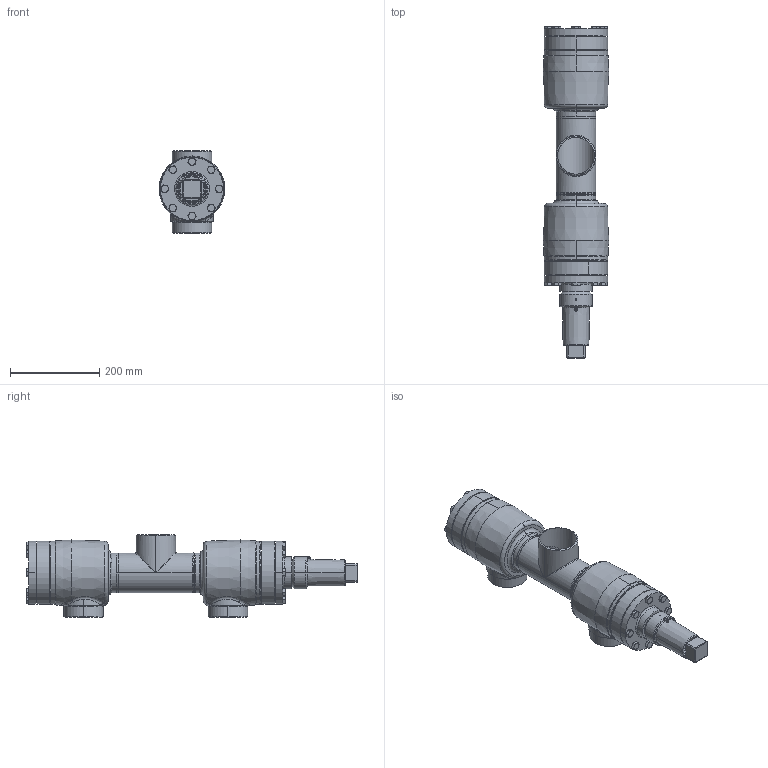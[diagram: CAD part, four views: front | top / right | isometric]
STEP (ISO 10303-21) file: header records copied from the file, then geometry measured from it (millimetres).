
FILE_DESCRIPTION (( 'STEP AP214' ), '1' );
FILE_NAME ('WVR24000D18-DN080_R1_PS40.STEP', '2010-09-08T08:23:51', ( 'Eckhard Grams' ), ( 'AWP Kälte Klima Armaturen GmbH' ), 'SwSTEP 2.0', 'SolidWorks 2002296', '' );
FILE_SCHEMA (( 'AUTOMOTIVE_DESIGN' ));
Length unit declared in the file: millimetre
Products named in the file (15): WVR24000D18-DN080_R1_PS40; Geh,kpl23000E18-DN080_R1_PS40_Standard; bead23000-18-2kopf_Standard; bead23000-18-1kopf_Standard; bead23000-18-2_Standard; bead23000-18-1_Standard; Kopfstück16300-DN080_Standard; T-Stück DIN2615_DN 80; Gehäuse23000E18-DN080_R1_PS40_Standard; AVR26300E18_Deck+Schr-DN80_Standard; Deckel26300E18-DN80_Standard; WVB-R23000E18_Deck+Schr-DN80_Standard; Deckel23000E18-DN80_Standard; Sechskantschraube-DIN933_M10x 30; Kappe 16402-19_DN80-100 (M60x3)_Standard
Assembly tree (31 placements, depth 3):
  WVR24000D18-DN080_R1_PS40
    WVB-R23000E18_Deck+Schr-DN80_Standard
      Sechskantschraube-DIN933_M10x 30  x8
      Deckel23000E18-DN80_Standard
    AVR26300E18_Deck+Schr-DN80_Standard
      Sechskantschraube-DIN933_M10x 30  x8
      Deckel26300E18-DN80_Standard
    Geh,kpl23000E18-DN080_R1_PS40_Standard
      bead23000-18-1kopf_Standard
      Gehäuse23000E18-DN080_R1_PS40_Standard  x2
      Kopfstück16300-DN080_Standard  x2
      bead23000-18-2kopf_Standard
      T-Stück DIN2615_DN 80
      bead23000-18-2_Standard
      bead23000-18-1_Standard
    Kappe 16402-19_DN80-100 (M60x3)_Standard
Bounding box: 147.49 x 745.4 x 186 mm (x, y, z)
Volume: 3401000.9 mm3; surface area: 720946.2 mm2
Topology: 28 solids, 28 shells, 729 faces, 1589 edges, 942 vertices
Faces by surface type: cone 281, plane 202, cylinder 180, bspline 44, torus 22
Entity records: 32170 total; most frequent: CARTESIAN_POINT 24495, DIRECTION 1444, ORIENTED_EDGE 1346, EDGE_CURVE 673, AXIS2_PLACEMENT_3D 623, VERTEX_POINT 413, EDGE_LOOP 366, CIRCLE 325
